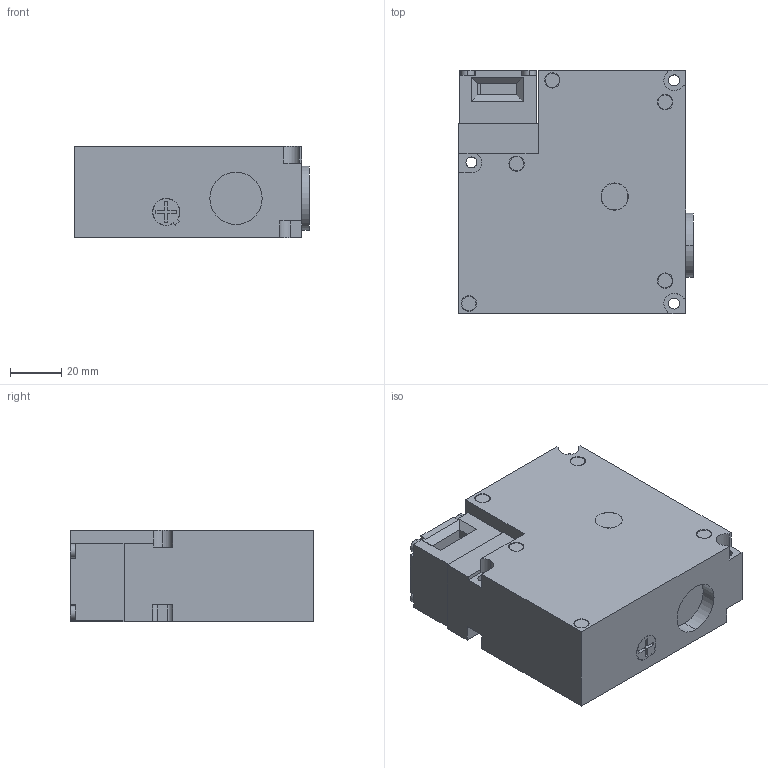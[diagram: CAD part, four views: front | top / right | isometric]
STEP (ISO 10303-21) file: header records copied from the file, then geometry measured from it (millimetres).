
FILE_DESCRIPTION (( 'STEP AP203' ), '1' );
FILE_NAME ('DS.step', '2022-02-25T11:44:05', ( '' ), ( '' ), 'SwSTEP 2.0', 'SolidWorks 2019', '' );
FILE_SCHEMA (( 'CONFIG_CONTROL_DESIGN' ));
Length unit declared in the file: millimetre
Products named in the file (7): DS_B_CAP1^DS_DS; DS_B_CAP2^DS_DS; DS_SCREW^DS_DS; DS^DS; DS_HEAD^DS_DS; DS_B_BASE^DS_DS; DS
Assembly tree (9 placements, depth 3):
  DS
    DS^DS
      DS_SCREW^DS_DS  x4
      DS_B_CAP1^DS_DS
      DS_B_BASE^DS_DS
      DS_HEAD^DS_DS
      DS_B_CAP2^DS_DS
Bounding box: 91.5 x 95 x 35.5 mm (x, y, z)
Volume: 281817 mm3; surface area: 43041.1 mm2
Topology: 8 solids, 8 shells, 319 faces, 790 edges, 514 vertices
Faces by surface type: plane 213, cylinder 106
Entity records: 9781 total; most frequent: CARTESIAN_POINT 1579, DIRECTION 1554, ORIENTED_EDGE 1508, EDGE_CURVE 754, LINE 560, VECTOR 560, AXIS2_PLACEMENT_3D 497, VERTEX_POINT 490
